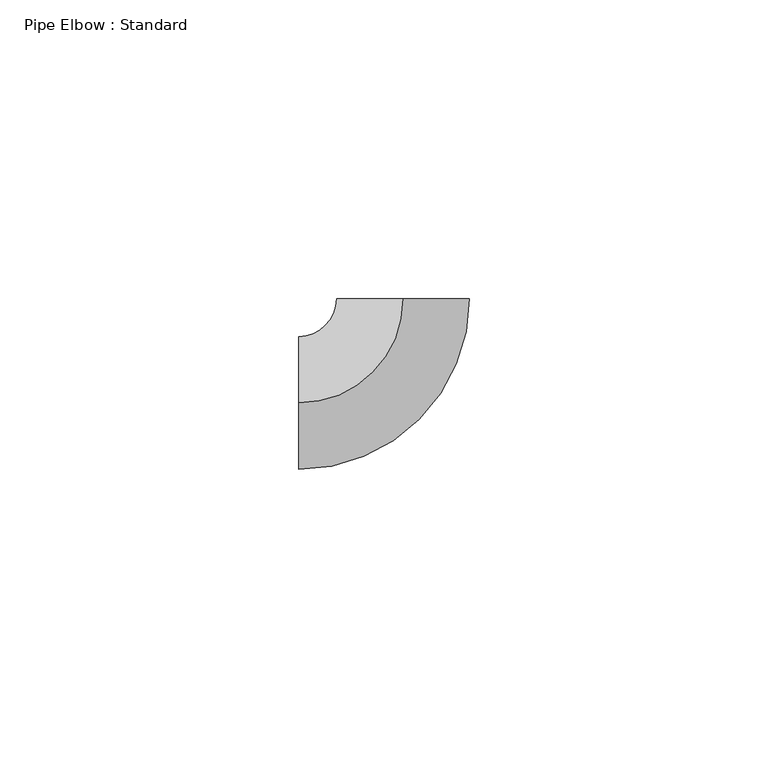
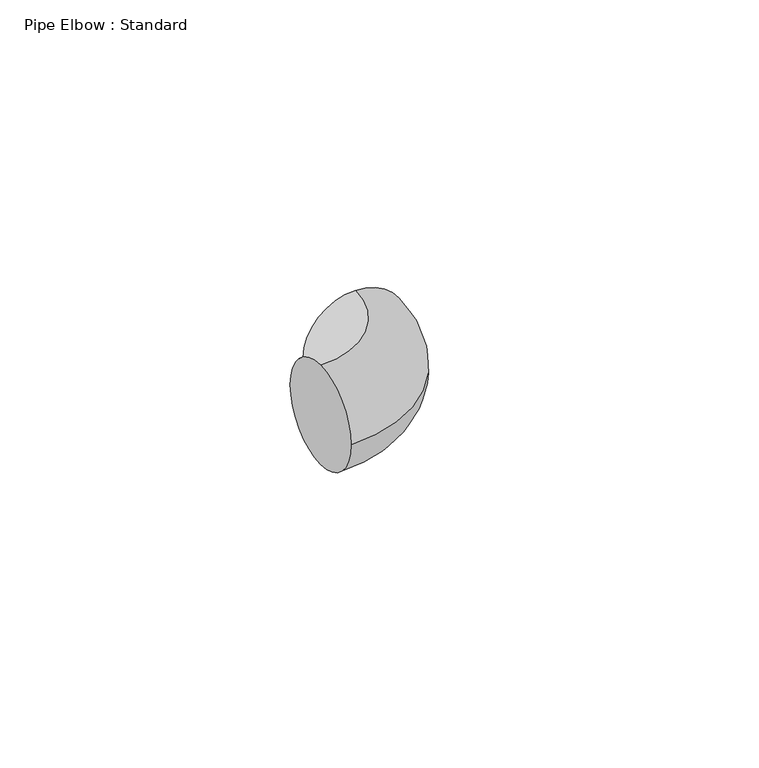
"""IFC4 building model written with IfcOpenShell, lengths in millimetres: pipe fitting geometry, Pipe Elbow : Standard."""

from ifc_helpers import new_model, si_unit, point, frame, origin, place, context, project, spatial, circle_curve, ellipse_curve, trimmed, source, transform, mapped, element, save
from ifc_brep_helpers import plane_surface, revolved_surface, advanced_brep


def pipe_elbow_standard_e0f7415f(model_context):
    return source(origin(), model_context, "Body", "AdvancedBrep", [
        advanced_brep(
        [(-17.4619819, 0.0, 11.1125), (-17.4619819, 11.1125, 0.0), (-17.4619819, 0.0, -11.1125), (-17.4619819, -11.1125, 0.0), (0.0005181, 17.4619819, 11.1125), (11.1130181, 17.4616522, 0.0), (0.0005181, 17.4619819, -11.1125), (-11.1119819, 17.4623116, 0.0)],
        [
            (0, 1, circle_curve(frame((-17.4619819, 0.0, 0.0), z_axis=(-1.0, 0.0, 0.0), x_axis=(0.0, 1.0, 0.0)), 11.1125)),
            (1, 2, circle_curve(frame((-17.4619819, 0.0, 0.0), z_axis=(-1.0, 0.0, 0.0), x_axis=(0.0, 1.0, 0.0)), 11.1125)),
            (2, 3, circle_curve(frame((-17.4619819, 0.0, 0.0), z_axis=(-1.0, 0.0, 0.0), x_axis=(0.0, 1.0, 0.0)), 11.1125)),
            (3, 0, circle_curve(frame((-17.4619819, 0.0, 0.0), z_axis=(-1.0, 0.0, 0.0), x_axis=(0.0, 1.0, 0.0)), 11.1125)),
            (4, 5, circle_curve(frame((0.0005181, 17.4619819, 0.0), z_axis=(2.9668478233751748e-05, 0.9999999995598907, 0.0), x_axis=(-0.9999999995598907, 2.9668478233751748e-05, 0.0)), 11.1125)),
            (5, 6, circle_curve(frame((0.0005181, 17.4619819, 0.0), z_axis=(2.9668478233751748e-05, 0.9999999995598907, 0.0), x_axis=(-0.9999999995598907, 2.9668478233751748e-05, 0.0)), 11.1125)),
            (6, 7, circle_curve(frame((0.0005181, 17.4619819, 0.0), z_axis=(2.9668478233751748e-05, 0.9999999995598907, 0.0), x_axis=(-0.9999999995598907, 2.9668478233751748e-05, 0.0)), 11.1125)),
            (7, 4, circle_curve(frame((0.0005181, 17.4619819, 0.0), z_axis=(2.9668478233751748e-05, 0.9999999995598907, 0.0), x_axis=(-0.9999999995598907, 2.9668478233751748e-05, 0.0)), 11.1125)),
            (7, 1, circle_curve(frame((-17.4619819, 17.4625, 0.0), z_axis=(0.0, 0.0, -1.0), x_axis=(0.0, -1.0, 0.0)), 6.35)),
            (0, 4, circle_curve(frame((-17.4619819, 17.4625, 11.1125), z_axis=(0.0, 0.0, 1.0), x_axis=(0.0, -1.0, 0.0)), 17.4625)),
            (6, 2, circle_curve(frame((-17.4619819, 17.4625, -11.1125), z_axis=(0.0, 0.0, -1.0), x_axis=(0.0, -1.0, 0.0)), 17.4625)),
            (5, 3, circle_curve(frame((-17.4619819, 17.4625, 0.0), z_axis=(0.0, 0.0, -1.0), x_axis=(0.0, -1.0, 0.0)), 28.575)),
        ],
        [
            plane_surface(frame((-17.4619819, 0.0, 0.0), z_axis=(-1.0, 0.0, 0.0), x_axis=(0.0, 0.0, 1.0))),
            plane_surface(frame((0.0005181, 17.4619819, 0.0), z_axis=(2.9668478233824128e-05, 0.9999999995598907, 0.0), x_axis=(0.0, 0.0, 1.0))),
            revolved_surface(trimmed(ellipse_curve(frame((-17.4619819, 0.0, 0.0), z_axis=(-1.0, 0.0, 0.0), x_axis=(0.0, 1.0, 0.0)), 11.1125, 11.1125), [point((-17.4619819, 0.0, 11.1125))], [point((-17.4619819, 11.1125, 0.0))], True, "CARTESIAN"), (-17.4619819, 17.4625, 0.0), (0.0, 0.0, 1.0)),
            revolved_surface(trimmed(ellipse_curve(frame((-17.4619819, 0.0, 0.0), z_axis=(-1.0, 0.0, 0.0), x_axis=(0.0, 1.0, 0.0)), 11.1125, 11.1125), [point((-17.4619819, 11.1125, 0.0))], [point((-17.4619819, 0.0, -11.1125))], True, "CARTESIAN"), (-17.4619819, 17.4625, 0.0), (0.0, 0.0, 1.0)),
            revolved_surface(trimmed(ellipse_curve(frame((-17.4619819, 0.0, 0.0), z_axis=(-1.0, 0.0, 0.0), x_axis=(0.0, 1.0, 0.0)), 11.1125, 11.1125), [point((-17.4619819, 0.0, -11.1125))], [point((-17.4619819, -11.1125, 0.0))], True, "CARTESIAN"), (-17.4619819, 17.4625, 0.0), (0.0, 0.0, 1.0)),
            revolved_surface(trimmed(ellipse_curve(frame((-17.4619819, 0.0, 0.0), z_axis=(-1.0, 0.0, 0.0), x_axis=(0.0, 1.0, 0.0)), 11.1125, 11.1125), [point((-17.4619819, -11.1125, 0.0))], [point((-17.4619819, 0.0, 11.1125))], True, "CARTESIAN"), (-17.4619819, 17.4625, 0.0), (0.0, 0.0, 1.0)),
        ],
        [
            (0, [[1, 2, 3, 4]]),
            (1, [[5, 6, 7, 8]]),
            (2, [[9, -1, 10, -8]]),
            (3, [[11, -2, -9, -7]]),
            (4, [[12, -3, -11, -6]]),
            (5, [[-10, -4, -12, -5]]),
        ],
    ),
        advanced_brep(
        [(-17.4619819, 0.0, 11.1125), (-17.4619819, 11.1125, 0.0), (-17.4619819, 0.0, -11.1125), (-17.4619819, -11.1125, 0.0), (0.0005181, 17.4619819, 11.1125), (11.1130181, 17.4616522, 0.0), (0.0005181, 17.4619819, -11.1125), (-11.1119819, 17.4623116, 0.0)],
        [
            (0, 1, circle_curve(frame((-17.4619819, 0.0, 0.0), z_axis=(-1.0, 0.0, 0.0), x_axis=(0.0, 1.0, 0.0)), 11.1125)),
            (1, 2, circle_curve(frame((-17.4619819, 0.0, 0.0), z_axis=(-1.0, 0.0, 0.0), x_axis=(0.0, 1.0, 0.0)), 11.1125)),
            (2, 3, circle_curve(frame((-17.4619819, 0.0, 0.0), z_axis=(-1.0, 0.0, 0.0), x_axis=(0.0, 1.0, 0.0)), 11.1125)),
            (3, 0, circle_curve(frame((-17.4619819, 0.0, 0.0), z_axis=(-1.0, 0.0, 0.0), x_axis=(0.0, 1.0, 0.0)), 11.1125)),
            (4, 5, circle_curve(frame((0.0005181, 17.4619819, 0.0), z_axis=(2.9668478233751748e-05, 0.9999999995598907, 0.0), x_axis=(-0.9999999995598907, 2.9668478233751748e-05, 0.0)), 11.1125)),
            (5, 6, circle_curve(frame((0.0005181, 17.4619819, 0.0), z_axis=(2.9668478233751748e-05, 0.9999999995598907, 0.0), x_axis=(-0.9999999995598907, 2.9668478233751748e-05, 0.0)), 11.1125)),
            (6, 7, circle_curve(frame((0.0005181, 17.4619819, 0.0), z_axis=(2.9668478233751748e-05, 0.9999999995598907, 0.0), x_axis=(-0.9999999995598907, 2.9668478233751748e-05, 0.0)), 11.1125)),
            (7, 4, circle_curve(frame((0.0005181, 17.4619819, 0.0), z_axis=(2.9668478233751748e-05, 0.9999999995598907, 0.0), x_axis=(-0.9999999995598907, 2.9668478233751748e-05, 0.0)), 11.1125)),
            (7, 1, circle_curve(frame((-17.4619819, 17.4625, 0.0), z_axis=(0.0, 0.0, -1.0), x_axis=(0.0, -1.0, 0.0)), 6.35)),
            (0, 4, circle_curve(frame((-17.4619819, 17.4625, 11.1125), z_axis=(0.0, 0.0, 1.0), x_axis=(0.0, -1.0, 0.0)), 17.4625)),
            (6, 2, circle_curve(frame((-17.4619819, 17.4625, -11.1125), z_axis=(0.0, 0.0, -1.0), x_axis=(0.0, -1.0, 0.0)), 17.4625)),
            (5, 3, circle_curve(frame((-17.4619819, 17.4625, 0.0), z_axis=(0.0, 0.0, -1.0), x_axis=(0.0, -1.0, 0.0)), 28.575)),
        ],
        [
            plane_surface(frame((-17.4619819, 0.0, 0.0), z_axis=(-1.0, 0.0, 0.0), x_axis=(0.0, 0.0, 1.0))),
            plane_surface(frame((0.0005181, 17.4619819, 0.0), z_axis=(2.9668478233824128e-05, 0.9999999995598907, 0.0), x_axis=(0.0, 0.0, 1.0))),
            revolved_surface(trimmed(ellipse_curve(frame((-17.4619819, 0.0, 0.0), z_axis=(-1.0, 0.0, 0.0), x_axis=(0.0, 1.0, 0.0)), 11.1125, 11.1125), [point((-17.4619819, 0.0, 11.1125))], [point((-17.4619819, 11.1125, 0.0))], True, "CARTESIAN"), (-17.4619819, 17.4625, 0.0), (0.0, 0.0, 1.0)),
            revolved_surface(trimmed(ellipse_curve(frame((-17.4619819, 0.0, 0.0), z_axis=(-1.0, 0.0, 0.0), x_axis=(0.0, 1.0, 0.0)), 11.1125, 11.1125), [point((-17.4619819, 11.1125, 0.0))], [point((-17.4619819, 0.0, -11.1125))], True, "CARTESIAN"), (-17.4619819, 17.4625, 0.0), (0.0, 0.0, 1.0)),
            revolved_surface(trimmed(ellipse_curve(frame((-17.4619819, 0.0, 0.0), z_axis=(-1.0, 0.0, 0.0), x_axis=(0.0, 1.0, 0.0)), 11.1125, 11.1125), [point((-17.4619819, 0.0, -11.1125))], [point((-17.4619819, -11.1125, 0.0))], True, "CARTESIAN"), (-17.4619819, 17.4625, 0.0), (0.0, 0.0, 1.0)),
            revolved_surface(trimmed(ellipse_curve(frame((-17.4619819, 0.0, 0.0), z_axis=(-1.0, 0.0, 0.0), x_axis=(0.0, 1.0, 0.0)), 11.1125, 11.1125), [point((-17.4619819, -11.1125, 0.0))], [point((-17.4619819, 0.0, 11.1125))], True, "CARTESIAN"), (-17.4619819, 17.4625, 0.0), (0.0, 0.0, 1.0)),
        ],
        [
            (0, [[1, 2, 3, 4]]),
            (1, [[5, 6, 7, 8]]),
            (2, [[9, -1, 10, -8]]),
            (3, [[11, -2, -9, -7]]),
            (4, [[12, -3, -11, -6]]),
            (5, [[-10, -4, -12, -5]]),
        ],
    ),
    ])


if __name__ == "__main__":
    model = new_model("IFC4")
    model_context = context("Model", 3, world=origin())
    ifc_project = project(units=[si_unit("LENGTHUNIT", "METRE", prefix="MILLI")], contexts=[model_context])
    site = spatial("IfcSite", under=ifc_project)
    building = spatial("IfcBuilding", under=site)
    placement = place(None, origin())
    pipe_elbow_standard_shape = pipe_elbow_standard_e0f7415f(model_context)
    element("IfcPipeFitting", 1, ObjectType="Pipe Elbow : Standard", at=placement, inside=building, context=model_context, shape_type="MappedRepresentation", body=[
        mapped(pipe_elbow_standard_shape, transform((0.0, 0.0, 0.0), x_axis=(1.0, 0.0, 0.0), y_axis=(0.0, 1.0, 0.0), z_axis=(0.0, 0.0, 1.0))),
    ])
    save(model, "model.ifc")
